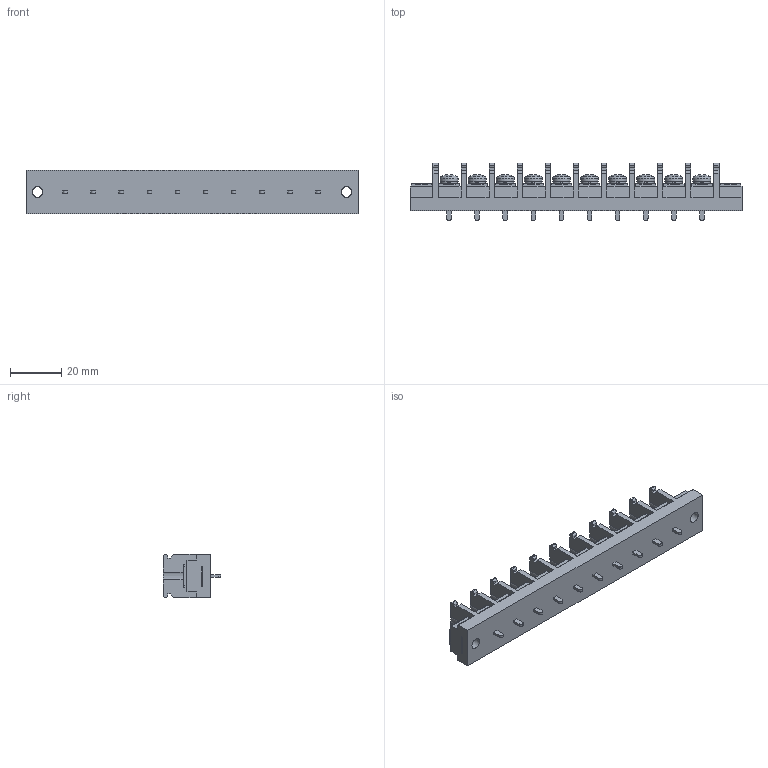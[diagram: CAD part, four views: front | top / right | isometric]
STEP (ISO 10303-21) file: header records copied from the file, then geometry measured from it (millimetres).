
FILE_DESCRIPTION(/* description */ ('Alibre Inc.'),/* implementation_level */ '2;1');
FILE_NAME(/* name */ 'export0',/* time_stamp */ '2015-10-19T19:11:26+09:00',/* author */ (''),/* organization */ (''),/* preprocessor_version */ 'ST-DEVELOPER v14',/* originating_system */ 'Alibre',/* authorisation */ '');
FILE_SCHEMA (('CONFIG_CONTROL_DESIGN'));
Length unit declared in the file: centimetre
Products named in the file (1): ID_1
Bounding box: 130 x 22.5 x 17 mm (x, y, z)
Volume: 23616.9 mm3; surface area: 13185.7 mm2
Topology: 1 solids, 1 shells, 1194 faces, 3326 edges, 2208 vertices
Faces by surface type: plane 838, cylinder 182, bspline 104, cone 40, torus 20, sphere 10
Full cylindrical faces by diameter (mm): 4 x12, 4.2 x2, 6.5 x10, 7 x10
Entity records: 37055 total; most frequent: CARTESIAN_POINT 7846, ORIENTED_EDGE 6500, DIRECTION 4929, EDGE_CURVE 3250, VECTOR 2287, LINE 2287, VERTEX_POINT 2176, AXIS2_PLACEMENT_3D 1735
